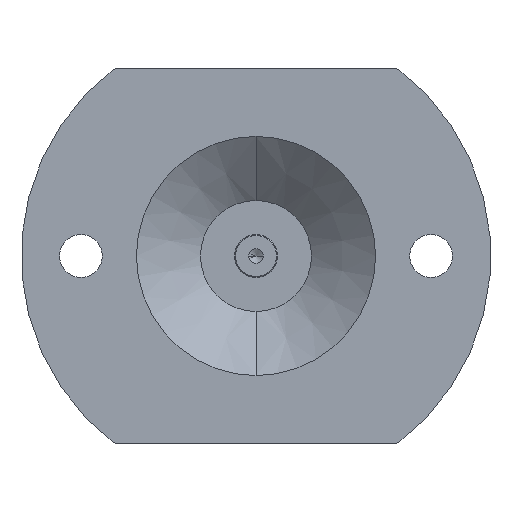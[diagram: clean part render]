
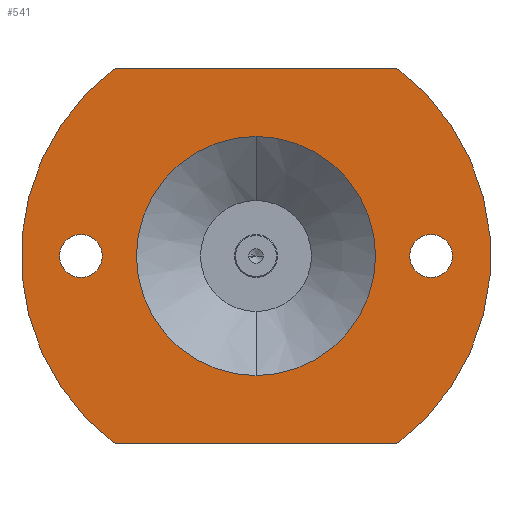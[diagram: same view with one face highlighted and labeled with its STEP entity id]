
A CAD part, front view. The second image highlights one B-rep face of the part: STEP entity #541.
In plain terms, the highlighted planar face has unit normal (0, -1, 0).
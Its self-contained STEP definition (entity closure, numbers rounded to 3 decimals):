
#3 = ORIENTED_EDGE ( 'NONE', *, *, #175, .T. ) ;
#21 = VERTEX_POINT ( 'NONE', #755 ) ;
#24 = CARTESIAN_POINT ( 'NONE',  ( -44.841, 0., -16.58 ) ) ;
#43 = VERTEX_POINT ( 'NONE', #517 ) ;
#60 = EDGE_CURVE ( 'NONE', #636, #21, #545, .T. ) ;
#68 = ORIENTED_EDGE ( 'NONE', *, *, #515, .T. ) ;
#96 = CARTESIAN_POINT ( 'NONE',  ( -40.841, 0., 7.92 ) ) ;
#97 = DIRECTION ( 'NONE',  ( 0., 1., 0. ) ) ;
#99 = DIRECTION ( 'NONE',  ( 0., 0., -1. ) ) ;
#107 = VERTEX_POINT ( 'NONE', #835 ) ;
#117 = CIRCLE ( 'NONE', #1050, 27.5 ) ;
#137 = CARTESIAN_POINT ( 'NONE',  ( -24.341, 0., -14.08 ) ) ;
#140 = CARTESIAN_POINT ( 'NONE',  ( -44.841, 0., -14.08 ) ) ;
#143 = CIRCLE ( 'NONE', #309, 2.5 ) ;
#144 = AXIS2_PLACEMENT_3D ( 'NONE', #934, #614, #363 ) ;
#147 = CARTESIAN_POINT ( 'NONE',  ( -7.841, 0., 7.92 ) ) ;
#175 = EDGE_CURVE ( 'NONE', #931, #989, #710, .T. ) ;
#201 = DIRECTION ( 'NONE',  ( 0., 1., 0. ) ) ;
#216 = CIRCLE ( 'NONE', #923, 2.5 ) ;
#233 = EDGE_CURVE ( 'NONE', #107, #43, #967, .T. ) ;
#249 = AXIS2_PLACEMENT_3D ( 'NONE', #137, #954, #969 ) ;
#250 = EDGE_LOOP ( 'NONE', ( #461, #824 ) ) ;
#251 = AXIS2_PLACEMENT_3D ( 'NONE', #922, #97, #608 ) ;
#253 = CARTESIAN_POINT ( 'NONE',  ( -24.341, 0., -36.08 ) ) ;
#268 = VECTOR ( 'NONE', #904, 1000. ) ;
#277 = VERTEX_POINT ( 'NONE', #96 ) ;
#302 = ORIENTED_EDGE ( 'NONE', *, *, #939, .T. ) ;
#309 = AXIS2_PLACEMENT_3D ( 'NONE', #459, #370, #929 ) ;
#324 = CIRCLE ( 'NONE', #1025, 2.5 ) ;
#333 = CIRCLE ( 'NONE', #719, 14. ) ;
#339 = CARTESIAN_POINT ( 'NONE',  ( -7.841, 0., -36.08 ) ) ;
#357 = DIRECTION ( 'NONE',  ( 0., -1., 0. ) ) ;
#363 = DIRECTION ( 'NONE',  ( 0., 0., -1. ) ) ;
#370 = DIRECTION ( 'NONE',  ( 0., 1., 0. ) ) ;
#380 = FACE_BOUND ( 'NONE', #910, .T. ) ;
#399 = EDGE_LOOP ( 'NONE', ( #678, #897 ) ) ;
#413 = CARTESIAN_POINT ( 'NONE',  ( -24.341, 0., -14.08 ) ) ;
#417 = VERTEX_POINT ( 'NONE', #147 ) ;
#435 = EDGE_CURVE ( 'NONE', #989, #417, #606, .T. ) ;
#459 = CARTESIAN_POINT ( 'NONE',  ( -44.841, 0., -14.08 ) ) ;
#461 = ORIENTED_EDGE ( 'NONE', *, *, #462, .T. ) ;
#462 = EDGE_CURVE ( 'NONE', #21, #636, #333, .T. ) ;
#484 = DIRECTION ( 'NONE',  ( 0., 1., 0. ) ) ;
#513 = CARTESIAN_POINT ( 'NONE',  ( -24.341, 0., -14.08 ) ) ;
#515 = EDGE_CURVE ( 'NONE', #277, #931, #117, .T. ) ;
#517 = CARTESIAN_POINT ( 'NONE',  ( -3.841, 0., -16.58 ) ) ;
#523 = EDGE_CURVE ( 'NONE', #871, #669, #143, .T. ) ;
#541 = ADVANCED_FACE ( 'NONE', ( #827, #992, #653, #380 ), #694, .T. ) ;
#545 = CIRCLE ( 'NONE', #549, 14. ) ;
#549 = AXIS2_PLACEMENT_3D ( 'NONE', #513, #905, #752 ) ;
#550 = CARTESIAN_POINT ( 'NONE',  ( -24.341, 0., -14.08 ) ) ;
#606 = CIRCLE ( 'NONE', #249, 27.5 ) ;
#608 = DIRECTION ( 'NONE',  ( 0., 0., -1. ) ) ;
#614 = DIRECTION ( 'NONE',  ( 0., -1., 0. ) ) ;
#636 = VERTEX_POINT ( 'NONE', #1004 ) ;
#651 = DIRECTION ( 'NONE',  ( -1., 0., 0. ) ) ;
#653 = FACE_OUTER_BOUND ( 'NONE', #807, .T. ) ;
#669 = VERTEX_POINT ( 'NONE', #24 ) ;
#678 = ORIENTED_EDGE ( 'NONE', *, *, #830, .T. ) ;
#694 = PLANE ( 'NONE',  #144 ) ;
#710 = LINE ( 'NONE', #253, #268 ) ;
#713 = LINE ( 'NONE', #809, #868 ) ;
#719 = AXIS2_PLACEMENT_3D ( 'NONE', #413, #1049, #819 ) ;
#725 = CARTESIAN_POINT ( 'NONE',  ( -44.841, 0., -11.58 ) ) ;
#752 = DIRECTION ( 'NONE',  ( 0., 0., -1. ) ) ;
#755 = CARTESIAN_POINT ( 'NONE',  ( -24.341, 0., -28.08 ) ) ;
#778 = ORIENTED_EDGE ( 'NONE', *, *, #435, .T. ) ;
#781 = CARTESIAN_POINT ( 'NONE',  ( -3.841, 0., -14.08 ) ) ;
#802 = DIRECTION ( 'NONE',  ( 0., 0., -1. ) ) ;
#807 = EDGE_LOOP ( 'NONE', ( #778, #302, #68, #3 ) ) ;
#809 = CARTESIAN_POINT ( 'NONE',  ( -24.341, 0., 7.92 ) ) ;
#819 = DIRECTION ( 'NONE',  ( 0., 0., -1. ) ) ;
#824 = ORIENTED_EDGE ( 'NONE', *, *, #60, .T. ) ;
#827 = FACE_BOUND ( 'NONE', #250, .T. ) ;
#830 = EDGE_CURVE ( 'NONE', #669, #871, #324, .T. ) ;
#835 = CARTESIAN_POINT ( 'NONE',  ( -3.841, 0., -11.58 ) ) ;
#857 = DIRECTION ( 'NONE',  ( 0., 0., -1. ) ) ;
#868 = VECTOR ( 'NONE', #651, 1000. ) ;
#871 = VERTEX_POINT ( 'NONE', #725 ) ;
#882 = CARTESIAN_POINT ( 'NONE',  ( -40.841, 0., -36.08 ) ) ;
#897 = ORIENTED_EDGE ( 'NONE', *, *, #523, .T. ) ;
#904 = DIRECTION ( 'NONE',  ( 1., 0., 0. ) ) ;
#905 = DIRECTION ( 'NONE',  ( 0., 1., 0. ) ) ;
#910 = EDGE_LOOP ( 'NONE', ( #1020, #1009 ) ) ;
#922 = CARTESIAN_POINT ( 'NONE',  ( -3.841, 0., -14.08 ) ) ;
#923 = AXIS2_PLACEMENT_3D ( 'NONE', #781, #201, #857 ) ;
#929 = DIRECTION ( 'NONE',  ( 0., 0., -1. ) ) ;
#931 = VERTEX_POINT ( 'NONE', #882 ) ;
#934 = CARTESIAN_POINT ( 'NONE',  ( -24.341, 0., -14.08 ) ) ;
#939 = EDGE_CURVE ( 'NONE', #417, #277, #713, .T. ) ;
#946 = EDGE_CURVE ( 'NONE', #43, #107, #216, .T. ) ;
#954 = DIRECTION ( 'NONE',  ( 0., -1., 0. ) ) ;
#967 = CIRCLE ( 'NONE', #251, 2.5 ) ;
#969 = DIRECTION ( 'NONE',  ( 0., 0., -1. ) ) ;
#989 = VERTEX_POINT ( 'NONE', #339 ) ;
#992 = FACE_BOUND ( 'NONE', #399, .T. ) ;
#1004 = CARTESIAN_POINT ( 'NONE',  ( -24.341, 0., -0.08 ) ) ;
#1009 = ORIENTED_EDGE ( 'NONE', *, *, #233, .T. ) ;
#1020 = ORIENTED_EDGE ( 'NONE', *, *, #946, .T. ) ;
#1025 = AXIS2_PLACEMENT_3D ( 'NONE', #140, #484, #802 ) ;
#1049 = DIRECTION ( 'NONE',  ( 0., 1., 0. ) ) ;
#1050 = AXIS2_PLACEMENT_3D ( 'NONE', #550, #357, #99 ) ;
